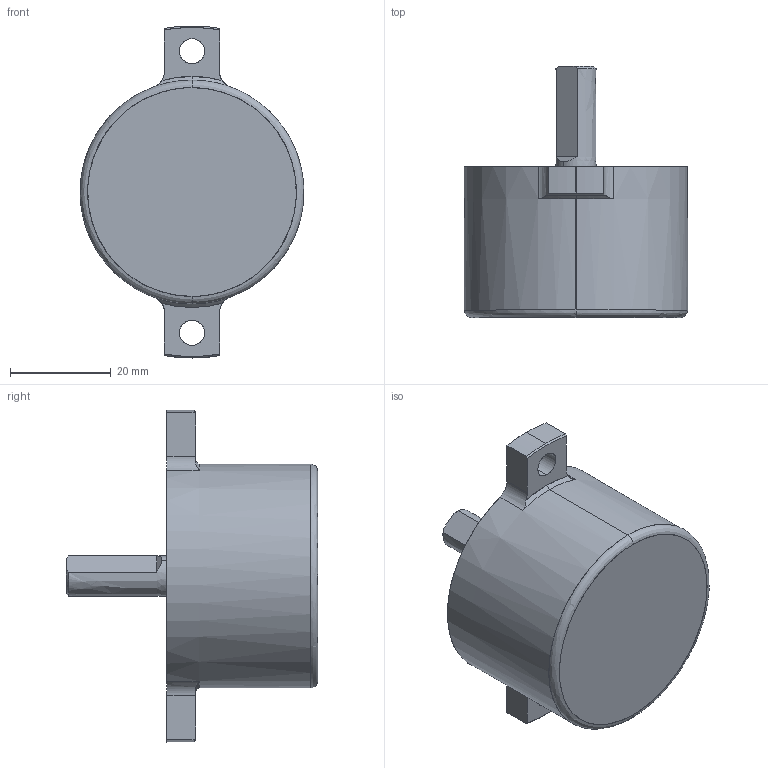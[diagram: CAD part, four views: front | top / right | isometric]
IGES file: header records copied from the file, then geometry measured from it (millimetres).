
Start section: SolidWorks IGES file using analytic representation for surfaces
Global section: file name: C:\3D-DATA\型式\R\【提出用】\IGS\FYN-D1-R.IGS; native system: SolidWorks 2014; preprocessor: SolidWorks 2014; author: flgijutsu; date: 140516.194721; units: millimetre
Bounding box: 44.5 x 50 x 66 mm (x, y, z)
Surface area: 8494.5 mm2 (no closed solid volume)
Topology: 0 solids, 0 shells, 40 faces, 805 edges, 805 vertices
Faces by surface type: revolution 23, bspline 17
